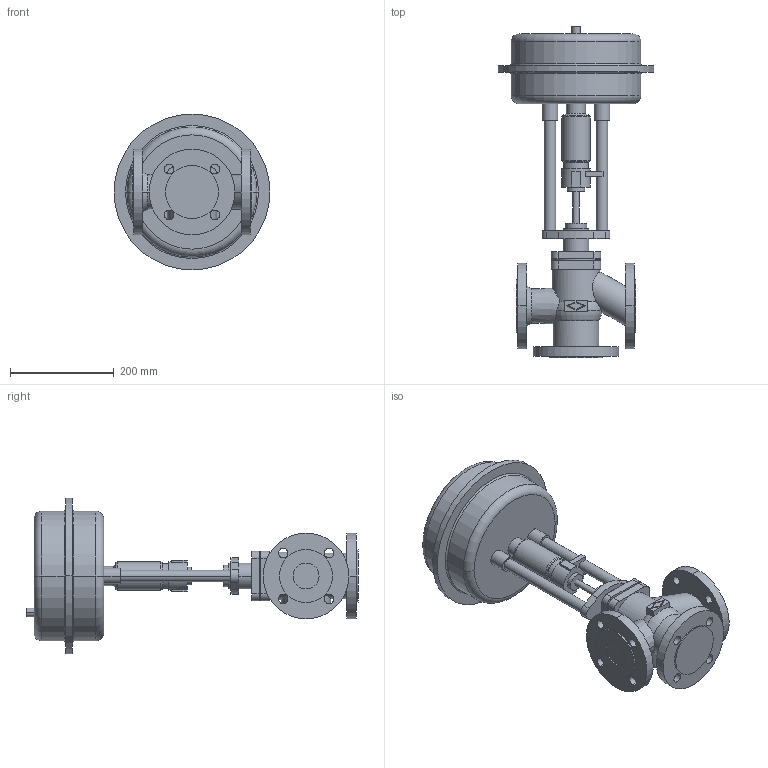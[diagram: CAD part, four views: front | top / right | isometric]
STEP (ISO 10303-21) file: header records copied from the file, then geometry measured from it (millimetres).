
FILE_DESCRIPTION(('OneSpaceDesigner STEP Export'),'2;1');
FILE_NAME('c000000685.stp','2006-09-19T10:13:04',(''),(''),'OneSpace Designer STEP processor for AP214 (Solid Model)','OneSpace Designer 13.20A 18-Aug-2005 (C) CoCreate Software GmbH','');
FILE_SCHEMA(('AUTOMOTIVE_DESIGN { 1 0 10303 214 1 1 1 1 }'));
Length unit declared in the file: millimetre
Products named in the file (2): 1; 2
Bounding box: 300 x 639.1 x 300 mm (x, y, z)
Volume: 10469722.7 mm3; surface area: 577441 mm2
Topology: 2 solids, 2 shells, 203 faces, 493 edges, 322 vertices
Faces by surface type: cylinder 96, plane 77, torus 22, cone 8
Entity records: 5670 total; most frequent: CARTESIAN_POINT 1287, ORIENTED_EDGE 986, DIRECTION 794, EDGE_CURVE 493, VERTEX_POINT 322, AXIS2_PLACEMENT_3D 289, EDGE_LOOP 255, VECTOR 216
